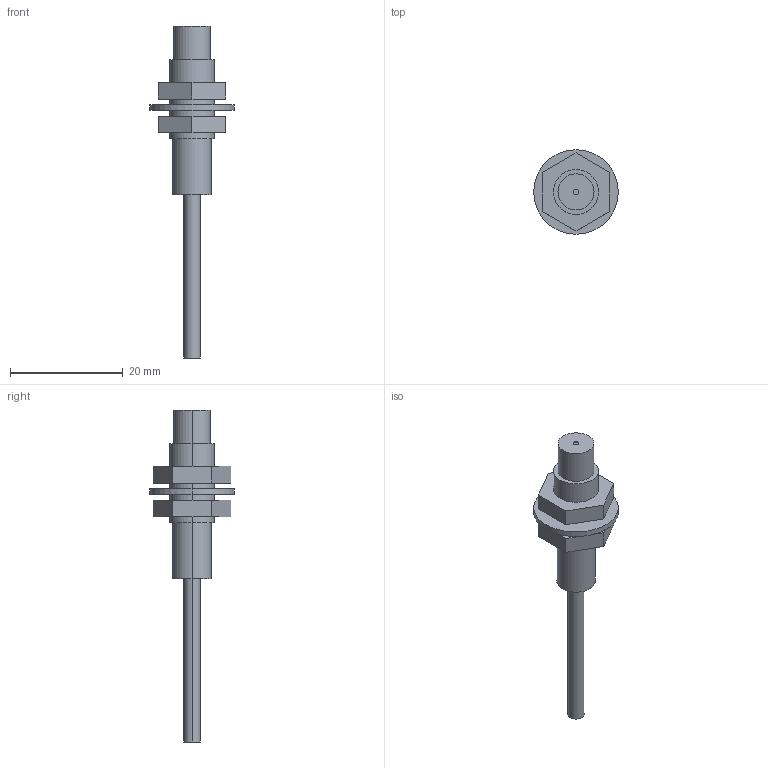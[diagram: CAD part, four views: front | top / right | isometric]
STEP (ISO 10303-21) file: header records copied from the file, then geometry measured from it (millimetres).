
FILE_DESCRIPTION (( 'STEP AP203' ), '1' );
FILE_NAME ('GX-8MLU.STEP', '2005-11-09T07:33:21', ( '' ), ( '' ), 'SwSTEP 2.0', 'SolidWorks 2004073', '' );
FILE_SCHEMA (( 'CONFIG_CONTROL_DESIGN' ));
Length unit declared in the file: millimetre
Products named in the file (1): GX-8MLU
Bounding box: 15 x 15 x 59 mm (x, y, z)
Volume: 2024.2 mm3; surface area: 2075.3 mm2
Topology: 4 solids, 4 shells, 51 faces, 108 edges, 72 vertices
Faces by surface type: plane 27, cylinder 24
Entity records: 1473 total; most frequent: DIRECTION 260, CARTESIAN_POINT 232, ORIENTED_EDGE 216, EDGE_CURVE 108, AXIS2_PLACEMENT_3D 100, VERTEX_POINT 72, EDGE_LOOP 64, VECTOR 60
